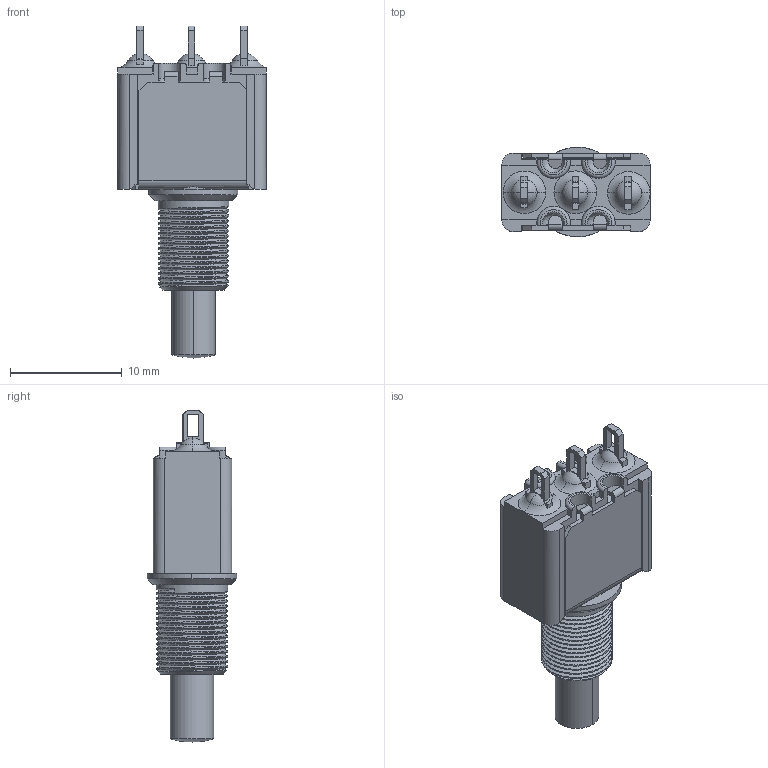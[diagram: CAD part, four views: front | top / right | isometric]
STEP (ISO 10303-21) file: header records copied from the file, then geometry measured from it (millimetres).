
FILE_DESCRIPTION((''),'2;1');
FILE_NAME('18535CD_ASM','2011-02-28T',('snouilhan'),(''),'PRO/ENGINEER BY PARAMETRIC TECHNOLOGY CORPORATION, 2009440','PRO/ENGINEER BY PARAMETRIC TECHNOLOGY CORPORATION, 2009440','');
FILE_SCHEMA(('CONFIG_CONTROL_DESIGN'));
Length unit declared in the file: millimetre
Products named in the file (1): 18535CD_ASM
Bounding box: 13.25 x 8 x 29.69 mm (x, y, z)
Volume: 1066.3 mm3; surface area: 2136.2 mm2
Topology: 1 solids, 1 shells, 496 faces, 1477 edges, 955 vertices
Faces by surface type: plane 313, cylinder 98, bspline 52, torus 16, sphere 10, cone 7
Entity records: 21189 total; most frequent: CARTESIAN_POINT 8196, ORIENTED_EDGE 2946, DIRECTION 2420, EDGE_CURVE 1473, VERTEX_POINT 955, VECTOR 940, LINE 940, AXIS2_PLACEMENT_3D 740
